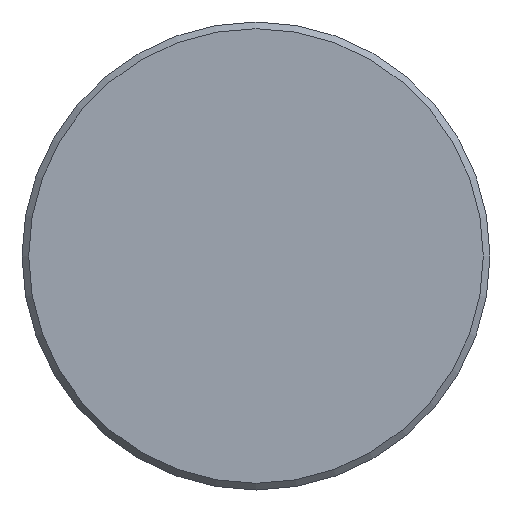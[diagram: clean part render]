
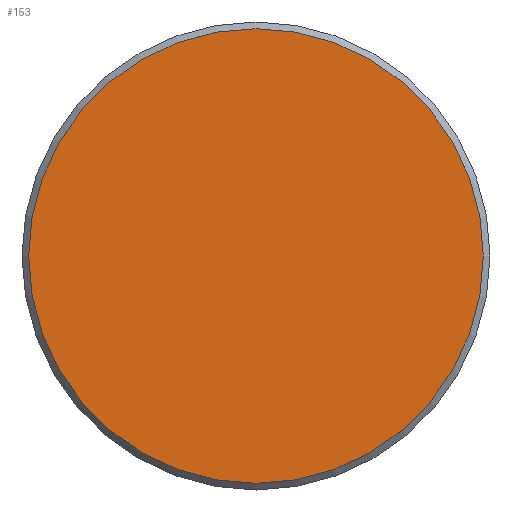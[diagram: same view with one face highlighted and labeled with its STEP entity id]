
A CAD part, front view. The second image highlights one B-rep face of the part: STEP entity #153.
In plain terms, the highlighted planar face has unit normal (0, -1, 0).
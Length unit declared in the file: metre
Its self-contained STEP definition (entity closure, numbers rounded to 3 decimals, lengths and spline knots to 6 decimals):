
#21=ORIENTED_EDGE('',*,*,#49,.T.);
#49=EDGE_CURVE('',#63,#63,#77,.T.);
#63=VERTEX_POINT('',#273);
#77=CIRCLE('',#182,0.0068);
#91=EDGE_LOOP('',(#21));
#119=FACE_BOUND('',#91,.T.);
#147=PLANE('',#181);
#153=ADVANCED_FACE('',(#119),#147,.F.);
#181=AXIS2_PLACEMENT_3D('',#271,#212,#213);
#182=AXIS2_PLACEMENT_3D('',#272,#214,#215);
#212=DIRECTION('',(0.,1.,0.));
#213=DIRECTION('',(1.,0.,0.));
#214=DIRECTION('',(0.,-1.,0.));
#215=DIRECTION('',(0.,0.,1.));
#271=CARTESIAN_POINT('',(0.,0.0005,0.));
#272=CARTESIAN_POINT('',(0.,0.0005,0.));
#273=CARTESIAN_POINT('',(0.,0.0005,0.0068));
